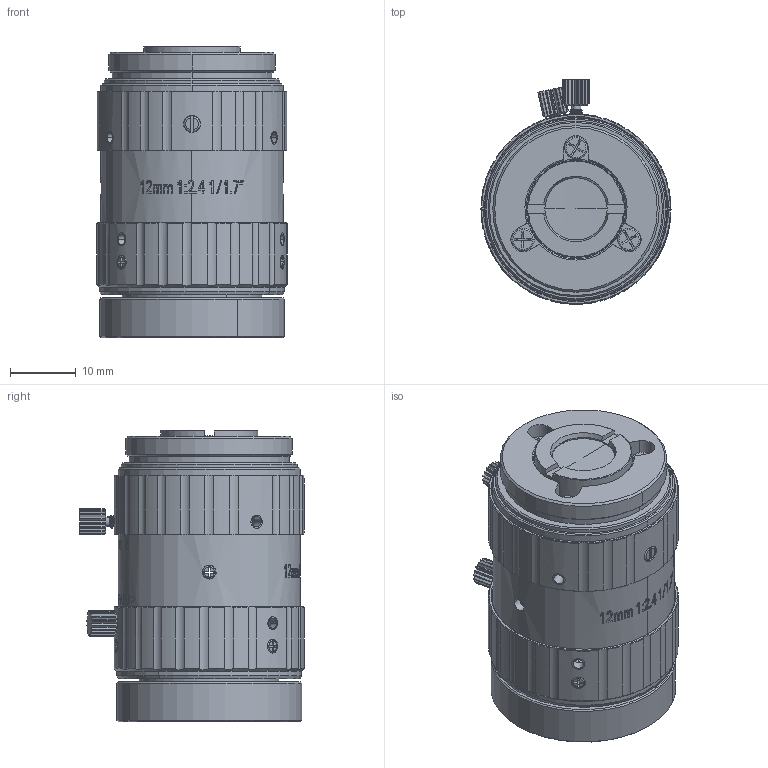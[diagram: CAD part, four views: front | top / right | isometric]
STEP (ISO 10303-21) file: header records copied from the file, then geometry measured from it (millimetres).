
FILE_DESCRIPTION((''),'2;1');
FILE_NAME('C-FA1213A_ASM','2023-09-19T13:59:15',('user'),(''),'CREO PARAMETRIC BY PTC INC, 2022073','CREO PARAMETRIC BY PTC INC, 2022073','');
FILE_SCHEMA(('CONFIG_CONTROL_DESIGN'));
Products named in the file (23): GB2324A-504_AF1; GB2324A-501_AF1; GB2324A-301_AF1; GB2324A-511_AF1; GB2324A-503_AF1; GB2324A-506_AF1; GB2324A-507_AF1; GB2324A-508_AF1; GB2324A-509_AF1; GB2324A-309_AF1; GB2324A-517_AF1; M14202001_AF5; M14202001_AF6; FA3502A-531_AF2; M14202001_AF7; M14202001_AF8; M14202001_AF9; M17553501_AF3; M17553501_AF4; M17553501_AF5; FA3502A-531_AF3; FA3511A-521_AF1; C-FA1213A_ASM
Assembly tree (22 placements, depth 2):
  C-FA1213A_ASM
    GB2324A-504_AF1
    GB2324A-501_AF1
    GB2324A-301_AF1
    GB2324A-511_AF1
    GB2324A-503_AF1
    GB2324A-506_AF1
    GB2324A-507_AF1
    GB2324A-508_AF1
    GB2324A-509_AF1
    GB2324A-309_AF1
    GB2324A-517_AF1
    M14202001_AF5
    M14202001_AF6
    FA3502A-531_AF2
    M14202001_AF7
    M14202001_AF8
    M14202001_AF9
    M17553501_AF3
    M17553501_AF4
    M17553501_AF5
    FA3502A-531_AF3
    FA3511A-521_AF1
Bounding box: 29 x 34.25 x 44.47 mm (x, y, z)
Volume: 7223.1 mm3; surface area: 13808.9 mm2
Topology: 22 solids, 36 shells, 1374 faces, 3583 edges, 2325 vertices
Faces by surface type: plane 454, cylinder 410, bspline 275, cone 201, torus 30, sphere 4
Entity records: 56310 total; most frequent: CARTESIAN_POINT 23822, ORIENTED_EDGE 7070, DIRECTION 5998, EDGE_CURVE 3577, VERTEX_POINT 2325, AXIS2_PLACEMENT_3D 2257, EDGE_LOOP 1504, VECTOR 1484
